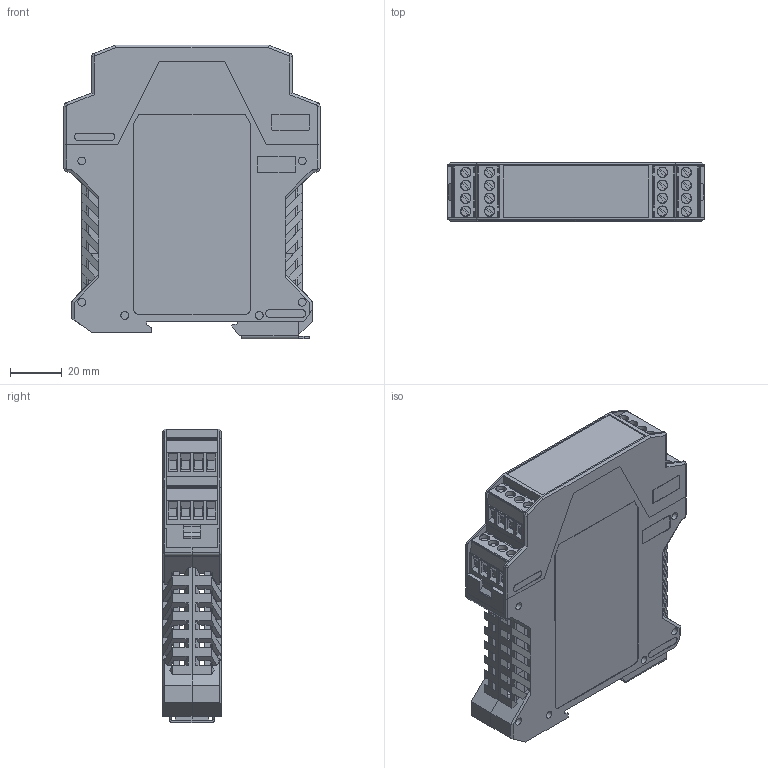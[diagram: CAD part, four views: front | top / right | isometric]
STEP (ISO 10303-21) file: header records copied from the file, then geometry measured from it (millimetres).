
FILE_DESCRIPTION(('STEP AP242'), '1');
FILE_NAME('Áëîê ÁÈÇ-2-xxÈ 1', '', ('UNSPECIFIED'), ('UNSPECIFIED'), 'C3D Converter', 'C3D Toolkit', '');
FILE_SCHEMA(('AP242_MANAGED_MODEL_BASED_3D_ENGINEERING_MIM_LF { 1 0 10303 442 1 1 4 }'));
Length unit declared in the file: millimetre
Products named in the file (22): Блок БИЗ-2-xxИ; PhoenixContact_1^Блок БИЗ-2-18И_картинка; 2019_09_23__15-05-32-622^PhoenixContact_1_Блок БИЗ-2-18И_картинка; 2019_09_23__15-05-32-591^PhoenixContact_1_Блок БИЗ-2-18И_картинка; 2019_09_23__15-05-32-560^PhoenixContact_1_Блок БИЗ-2-18И_картинка; 2019_09_23__15-05-32-528^PhoenixContact_1_Блок БИЗ-2-18И_картинка; 2019_09_23__15-05-32-497^PhoenixContact_1_Блок БИЗ-2-18И_картинка; 2019_09_23__15-05-32-466^PhoenixContact_1_Блок БИЗ-2-18И_картинка; 2019_09_23__15-05-32-435^PhoenixContact_1_Блок БИЗ-2-18И_картинка; 2019_09_23__15-05-32-403^PhoenixContact_1_Блок БИЗ-2-18И_картинка; 2019_09_23__15-05-32-372^PhoenixContact_1_Блок БИЗ-2-18И_картинка; 2019_09_23__15-05-32-341^PhoenixContact_1_Блок БИЗ-2-18И_картинка; 2019_09_23__15-05-32-310^PhoenixContact_1_Блок БИЗ-2-18И_картинка; 2019_09_23__15-05-32-278^PhoenixContact_1_Блок БИЗ-2-18И_картинка; 2019_09_23__15-05-32-247^PhoenixContact_1_Блок БИЗ-2-18И_картинка; 2019_09_23__15-05-32-216^PhoenixContact_1_Блок БИЗ-2-18И_картинка; 2019_09_23__15-05-32-153^PhoenixContact_1_Блок БИЗ-2-18И_картинка; 2019_09_23__15-05-32-122^PhoenixContact_1_Блок БИЗ-2-18И_картинка; 2019_09_23__15-05-32-091^PhoenixContact_1_Блок БИЗ-2-18И_картинка; MSTBT_2.5_4-ST
Assembly tree (22 placements, depth 3):
  Блок БИЗ-2-xxИ
    PhoenixContact_1^Блок БИЗ-2-18И_картинка
      2019_09_23__15-05-32-622^PhoenixContact_1_Блок БИЗ-2-18И_картинка
      2019_09_23__15-05-32-591^PhoenixContact_1_Блок БИЗ-2-18И_картинка
      2019_09_23__15-05-32-560^PhoenixContact_1_Блок БИЗ-2-18И_картинка
      2019_09_23__15-05-32-528^PhoenixContact_1_Блок БИЗ-2-18И_картинка
      2019_09_23__15-05-32-497^PhoenixContact_1_Блок БИЗ-2-18И_картинка
      2019_09_23__15-05-32-466^PhoenixContact_1_Блок БИЗ-2-18И_картинка
      2019_09_23__15-05-32-435^PhoenixContact_1_Блок БИЗ-2-18И_картинка
      2019_09_23__15-05-32-403^PhoenixContact_1_Блок БИЗ-2-18И_картинка
      2019_09_23__15-05-32-372^PhoenixContact_1_Блок БИЗ-2-18И_картинка
      2019_09_23__15-05-32-341^PhoenixContact_1_Блок БИЗ-2-18И_картинка
      2019_09_23__15-05-32-310^PhoenixContact_1_Блок БИЗ-2-18И_картинка
      2019_09_23__15-05-32-278^PhoenixContact_1_Блок БИЗ-2-18И_картинка
      2019_09_23__15-05-32-247^PhoenixContact_1_Блок БИЗ-2-18И_картинка
      2019_09_23__15-05-32-216^PhoenixContact_1_Блок БИЗ-2-18И_картинка
      2019_09_23__15-05-32-153^PhoenixContact_1_Блок БИЗ-2-18И_картинка
      2019_09_23__15-05-32-122^PhoenixContact_1_Блок БИЗ-2-18И_картинка
      2019_09_23__15-05-32-091^PhoenixContact_1_Блок БИЗ-2-18И_картинка
    MSTBT_2.5_4-ST  x2
    (unnamed)
    (unnamed)
Bounding box: 99 x 22.6 x 113.6 mm (x, y, z)
Volume: 79999.9 mm3; surface area: 93048.1 mm2
Topology: 21 solids, 21 shells, 2830 faces, 7926 edges, 5177 vertices
Faces by surface type: plane 2328, cylinder 474, cone 28
Full cylindrical faces by diameter (mm): 1.2 x4, 1.4 x16, 1.5 x32, 2 x6, 2.8 x32, 3 x12, 3.783 x16, 4 x16
Entity records: 107612 total; most frequent: CARTESIAN_POINT 16652, ORIENTED_EDGE 14776, DIRECTION 13296, EDGE_CURVE 7388, LINE 6166, VECTOR 6166, VERTEX_POINT 4905, AXIS2_PLACEMENT_3D 3565
